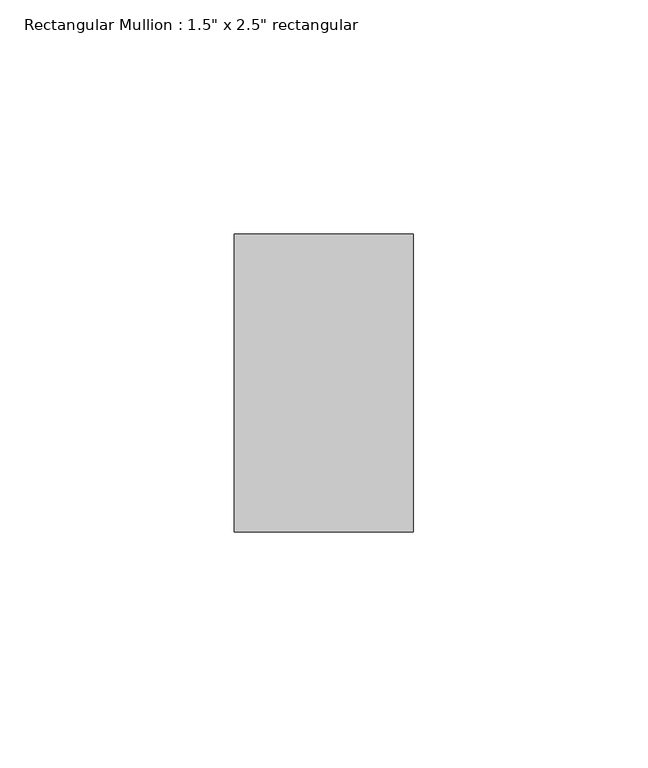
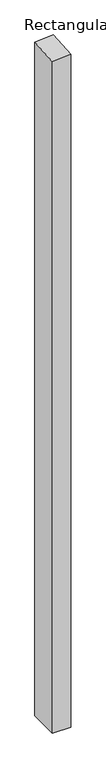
"""IFC4 building model written with IfcOpenShell, lengths in millimetres: member geometry."""

from ifc_helpers import new_model, si_unit, origin, place, context, project, spatial, faceted_brep, source, transform, mapped, element, save


def member_e9a455c1(model_context):
    return source(origin(), model_context, "Body", "Brep", [
        faceted_brep([(19.05, 31.75, -1489.8345883), (19.05, -31.75, -1489.8345883), (-19.05, -31.75, -1489.8345883), (-19.05, 31.75, -1489.8345883), (-19.05, 31.75, 0.9165246), (19.05, 31.75, 3.7029471), (-19.05, -31.75, -3.7029471), (19.05, -31.75, -0.9165246)], [[[0, 1, 2, 3]], [[4, 5, 0, 3]], [[6, 4, 3, 2]], [[7, 6, 2, 1]], [[5, 7, 1, 0]], [[5, 4, 6, 7]]]),
    ])


if __name__ == "__main__":
    model = new_model("IFC4")
    model_context = context("Model", 3, world=origin())
    ifc_project = project(units=[si_unit("LENGTHUNIT", "METRE", prefix="MILLI")], contexts=[model_context])
    site = spatial("IfcSite", under=ifc_project)
    building = spatial("IfcBuilding", under=site)
    placement = place(None, origin())
    member_shape = member_e9a455c1(model_context)
    element("IfcMember", 1, ObjectType="Rectangular Mullion : 1.5\" x 2.5\" rectangular", at=placement, inside=building, context=model_context, shape_type="MappedRepresentation", body=[
        mapped(member_shape, transform((0.0, 0.0, 0.0), x_axis=(1.0, 0.0, 0.0), y_axis=(0.0, 1.0, 0.0), z_axis=(0.0, 0.0, 1.0))),
    ])
    save(model, "model.ifc")
